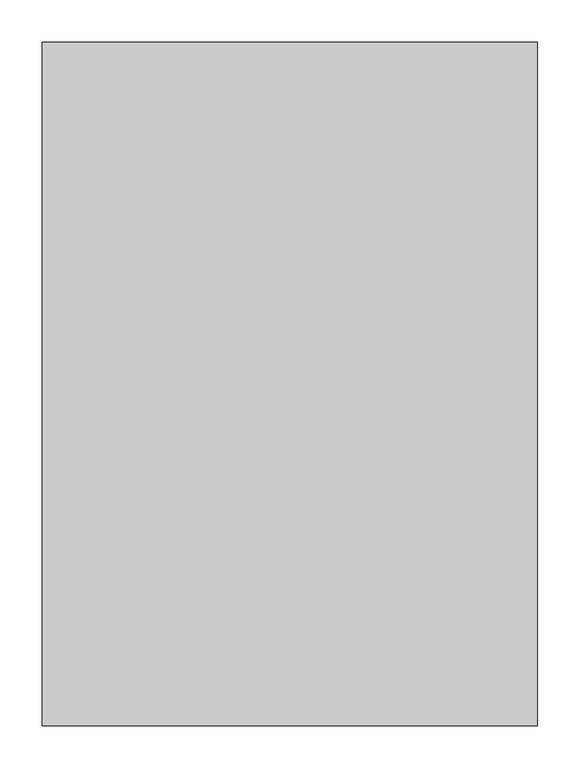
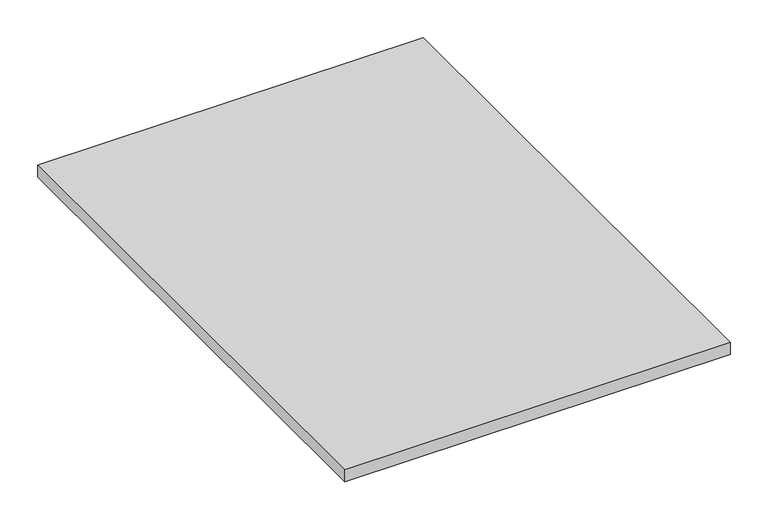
"""IFC4 building model written with IfcOpenShell, lengths in millimetres: proxy geometry, FOUNDATION^STANDARD CREDENZA_WEBSITE DETAIL-RIGHT CTR DOOR."""

from ifc_helpers import new_model, si_unit, frame, origin, place, context, project, spatial, polyline, outline, extrude, source, transform, mapped, element, save


def generic_models_1c48d9c8(model_context):
    return source(origin(), model_context, "Body", "SweptSolid", [
        extrude(outline(polyline([(1220.390625, 38.1), (1220.390625, 848.51875), (1807.9640625, 848.51875), (1807.9640625, 38.1), (1220.390625, 38.1)])), frame((0.0, 0.0, 615.95), z_axis=(0.0, 0.0, 1.0), x_axis=(1.0, 0.0, 0.0)), (0.0, 0.0, 1.0), 19.05),
    ])


if __name__ == "__main__":
    model = new_model("IFC4")
    model_context = context("Model", 3, world=origin())
    ifc_project = project(units=[si_unit("LENGTHUNIT", "METRE", prefix="MILLI")], contexts=[model_context])
    site = spatial("IfcSite", under=ifc_project)
    building = spatial("IfcBuilding", under=site)
    placement = place(None, origin())
    generic_models_shape = generic_models_1c48d9c8(model_context)
    element("IfcBuildingElementProxy", 1, Name="FOUNDATION^STANDARD CREDENZA_WEBSITE DETAIL-RIGHT CTR DOOR", ObjectType="FOUNDATION^STANDARD CREDENZA_WEBSITE DETAIL-RIGHT CTR DOOR", at=placement, inside=building, context=model_context, shape_type="MappedRepresentation", body=[
        mapped(generic_models_shape, transform((0.0, 0.0, 0.0), x_axis=(1.0, 0.0, 0.0), y_axis=(0.0, 1.0, 0.0), z_axis=(0.0, 0.0, 1.0))),
    ])
    save(model, "model.ifc")
